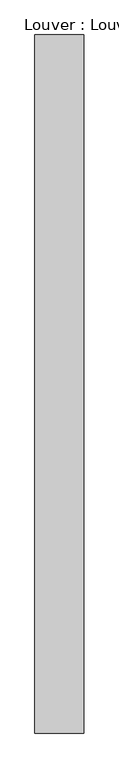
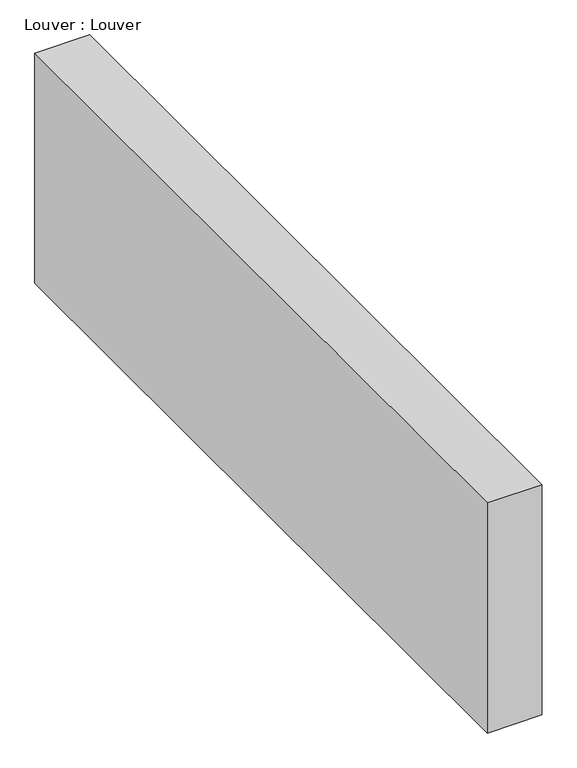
"""IFC4 building model written with IfcOpenShell, lengths in millimetres: air terminal geometry, Louver : Louver."""

from ifc_helpers import new_model, si_unit, frame, origin, place, context, project, spatial, polyline, outline, extrude, source, transform, mapped, element, save


def louver_louver_98c66642(model_context):
    return source(origin(), model_context, "Body", "SweptSolid", [
        extrude(outline(polyline([(-2623.5493706, 17381.1439333), (-2509.2493706, 17381.1439333), (-2509.2493706, 15742.3481947), (-2623.5493706, 15742.3481947), (-2623.5493706, 17381.1439333)])), frame((0.0, 0.0, 3877.2785273), z_axis=(0.0, 0.0, 1.0), x_axis=(1.0, 0.0, 0.0)), (0.0, 0.0, 1.0), 509.0422388),
    ])


if __name__ == "__main__":
    model = new_model("IFC4")
    model_context = context("Model", 3, world=origin())
    ifc_project = project(units=[si_unit("LENGTHUNIT", "METRE", prefix="MILLI")], contexts=[model_context])
    site = spatial("IfcSite", under=ifc_project)
    building = spatial("IfcBuilding", under=site)
    placement = place(None, origin())
    louver_louver_shape = louver_louver_98c66642(model_context)
    element("IfcAirTerminal", 1, ObjectType="Louver : Louver", at=placement, inside=building, context=model_context, shape_type="MappedRepresentation", body=[
        mapped(louver_louver_shape, transform((0.0, 0.0, 0.0), x_axis=(1.0, 0.0, 0.0), y_axis=(0.0, 1.0, 0.0), z_axis=(0.0, 0.0, 1.0))),
    ])
    save(model, "model.ifc")
